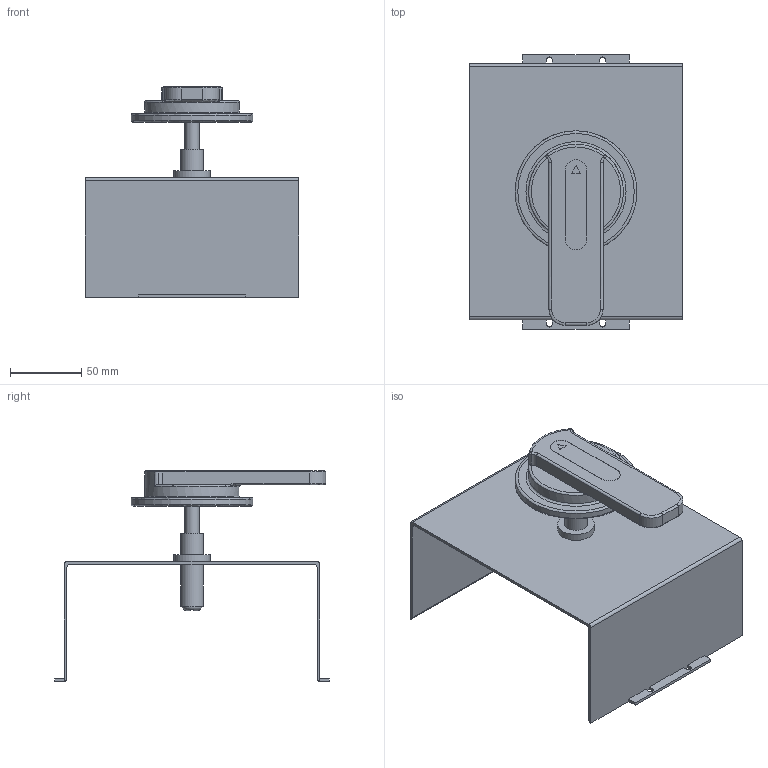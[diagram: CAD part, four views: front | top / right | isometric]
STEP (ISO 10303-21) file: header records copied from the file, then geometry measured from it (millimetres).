
FILE_DESCRIPTION(/* description */ (''),/* implementation_level */ '2;1');
FILE_NAME(/* name */ 'D:\2 ДОГОВОР ЧИНТ\Выслать\CHINT 10.03.2019\NM1\Privod NM1-400.stp',/* time_stamp */ '2019-03-11T17:55:56+03:00',/* author */ ('RSagdiev'),/* organization */ (''),/* preprocessor_version */ 'ST-DEVELOPER v16.5',/* originating_system */ 'Autodesk Inventor 2017',/* authorisation */ '');
FILE_SCHEMA (('AUTOMOTIVE_DESIGN { 1 0 10303 214 3 1 1 }'));
Length unit declared in the file: millimetre
Products named in the file (1): Privod NM1-400
Bounding box: 150 x 192.5 x 148 mm (x, y, z)
Volume: 227850.6 mm3; surface area: 137110.1 mm2
Topology: 6 solids, 6 shells, 116 faces, 293 edges, 184 vertices
Faces by surface type: plane 64, cylinder 28, bspline 23, torus 1
Full cylindrical faces by diameter (mm): 10 x4, 16 x2, 26 x1, 26.6 x1, 66.5 x1, 85.5 x1
Entity records: 5570 total; most frequent: CARTESIAN_POINT 2838, ORIENTED_EDGE 556, DIRECTION 515, EDGE_CURVE 278, VERTEX_POINT 182, AXIS2_PLACEMENT_3D 180, LINE 155, VECTOR 155
